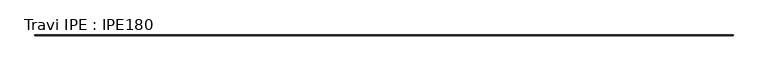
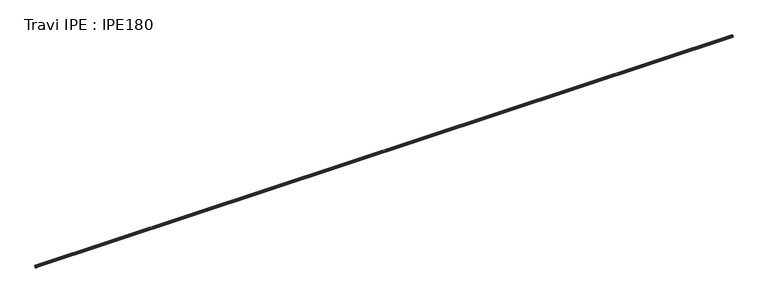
"""IFC4 building model written with IfcOpenShell, lengths in millimetres: beam geometry, Travi IPE : IPE180."""

from ifc_helpers import new_model, si_unit, point, frame, frame_2d, origin, place, context, project, spatial, polyline, circle_curve, trimmed, segment, composite_curve, outline, extrude, source, transform, mapped, element, save


def travi_ipe_ipe180_8526419e(model_context):
    return source(origin(), model_context, "Body", "SweptSolid", [
        extrude(outline(composite_curve([segment(polyline([(45.5, -82.0), (45.5, -90.0), (-45.5, -90.0), (-45.5, -82.0), (-11.65, -82.0)]), True, "CONTINUOUS"), segment(trimmed(circle_curve(frame_2d((-11.65, -73.0)), 9.0), [point((-11.65, -82.0))], [point((-2.65, -73.0))], True, "CARTESIAN"), True, "CONTINUOUS"), segment(polyline([(-2.65, -73.0), (-2.65, 73.0)]), True, "CONTINUOUS"), segment(trimmed(circle_curve(frame_2d((-11.65, 73.0)), 9.0), [point((-2.65, 73.0))], [point((-11.65, 82.0))], True, "CARTESIAN"), True, "CONTINUOUS"), segment(polyline([(-11.65, 82.0), (-45.5, 82.0), (-45.5, 90.0), (45.5, 90.0), (45.5, 82.0), (11.65, 82.0)]), True, "CONTINUOUS"), segment(trimmed(circle_curve(frame_2d((11.65, 73.0)), 9.0), [point((11.65, 82.0))], [point((2.65, 73.0))], True, "CARTESIAN"), True, "CONTINUOUS"), segment(polyline([(2.65, 73.0), (2.65, -73.0)]), True, "CONTINUOUS"), segment(trimmed(circle_curve(frame_2d((11.65, -73.0)), 9.0), [point((2.65, -73.0))], [point((11.65, -82.0))], True, "CARTESIAN"), True, "CONTINUOUS"), segment(polyline([(11.65, -82.0), (45.5, -82.0)]), True, "CONTINUOUS")], self_intersect=False)), frame((-53872.3461111, 0.0, 0.0), z_axis=(1.0, 0.0, 0.0), x_axis=(0.0, 1.0, 0.0)), (0.0, 0.0, 1.0), 61156.8461111),
    ])


if __name__ == "__main__":
    model = new_model("IFC4")
    model_context = context("Model", 3, world=origin())
    ifc_project = project(units=[si_unit("LENGTHUNIT", "METRE", prefix="MILLI")], contexts=[model_context])
    site = spatial("IfcSite", under=ifc_project)
    building = spatial("IfcBuilding", under=site)
    placement = place(None, origin())
    travi_ipe_ipe180_shape = travi_ipe_ipe180_8526419e(model_context)
    element("IfcBeam", 1, ObjectType="Travi IPE : IPE180", at=placement, inside=building, context=model_context, shape_type="MappedRepresentation", body=[
        mapped(travi_ipe_ipe180_shape, transform((0.0, 0.0, 0.0), x_axis=(1.0, 0.0, 0.0), y_axis=(0.0, 1.0, 0.0), z_axis=(0.0, 0.0, 1.0))),
    ])
    save(model, "model.ifc")
